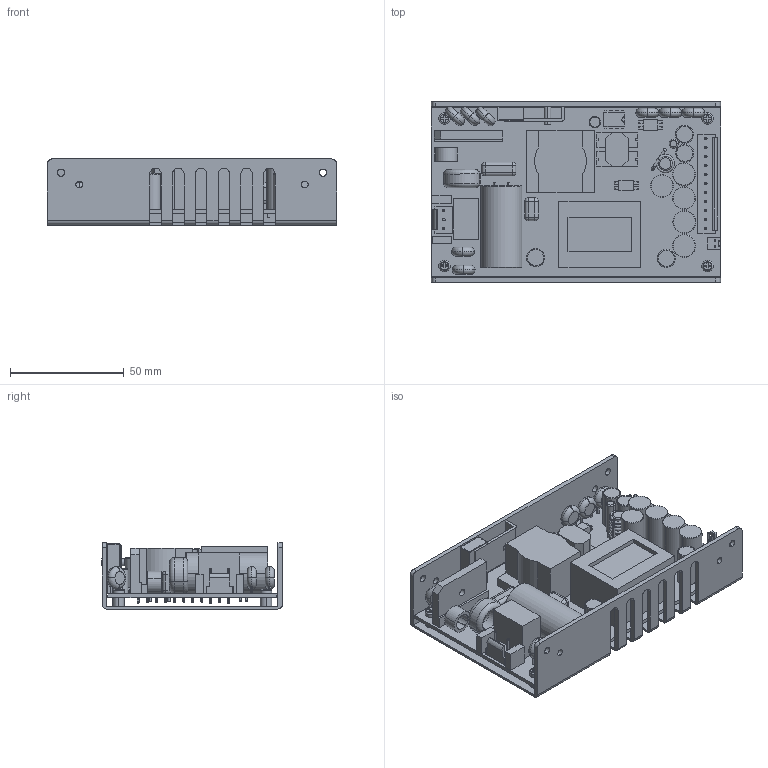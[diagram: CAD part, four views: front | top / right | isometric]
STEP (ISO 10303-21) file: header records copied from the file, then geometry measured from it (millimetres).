
FILE_DESCRIPTION (( 'STEP AP214' ), '1' );
FILE_NAME ('UCP225PS-A.STEP', '2016-05-30T09:54:13', ( '' ), ( '' ), 'SwSTEP 2.0', 'SolidWorks 2015', '' );
FILE_SCHEMA (( 'AUTOMOTIVE_DESIGN' ));
Length unit declared in the file: millimetre
Products named in the file (30): UCP225 pcb; Inductor R4x10; PQ-2620; UCP225PS-A; RM6-1; LP2920; Inductor R6x15; Y-Cap; x-cap 18X11; MEF15X10; MEF10X10; Cap-5-11; Cap-8-16; 10mm; Cap-10X20; 螺絲; Cap-18X35.5; WS-73003 26.5X15X9mm; PHOTO-COUPLER; X25BCHS01F; 2-2 2.54mm; TO220 帽套; 3.96mm P101G-11-11; TO-220; 3.96 mm Locking Header 3-2pin; DIP 8pin; FUSE; Common-choke; M1F; 16X8
Assembly tree (48 placements, depth 2):
  UCP225PS-A
    UCP225 pcb
    M1F
    FUSE  x2
    3.96 mm Locking Header 3-2pin
    3.96mm P101G-11-11
    2-2 2.54mm
    PHOTO-COUPLER  x2
    Cap-18X35.5
    Cap-10X20  x5
    Cap-8-16  x4
    Cap-5-11
    MEF10X10
    MEF15X10
    x-cap 18X11
    Y-Cap  x8
    Inductor R6x15
    LP2920
    RM6-1
    PQ-2620
    Inductor R4x10
    16X8
    Common-choke
    DIP 8pin
    TO-220
    TO220 帽套
    X25BCHS01F
    WS-73003 26.5X15X9mm
    螺絲  x4
    10mm
Bounding box: 127 x 79.45 x 29 mm (x, y, z)
Volume: 108083 mm3; surface area: 85913.1 mm2
Topology: 48 solids, 48 shells, 1157 faces, 2748 edges, 1721 vertices
Faces by surface type: plane 557, cylinder 379, torus 194, sphere 20, bspline 7
Entity records: 26483 total; most frequent: CARTESIAN_POINT 5289, DIRECTION 4397, ORIENTED_EDGE 3962, EDGE_CURVE 1981, AXIS2_PLACEMENT_3D 1610, VERTEX_POINT 1263, LINE 1177, VECTOR 1177
